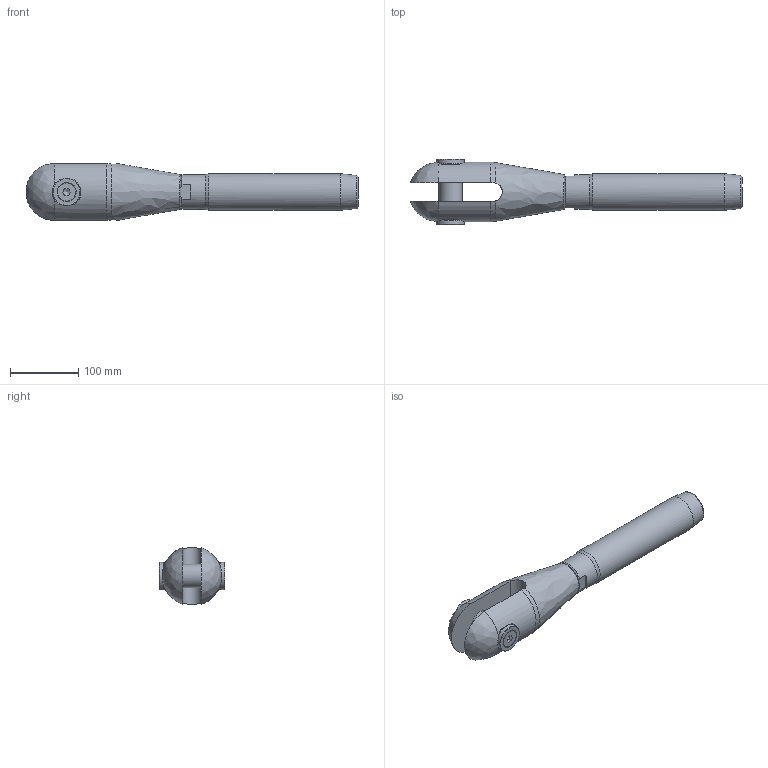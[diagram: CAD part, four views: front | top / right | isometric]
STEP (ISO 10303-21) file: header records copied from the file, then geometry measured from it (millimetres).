
FILE_DESCRIPTION(/* description */ (''),/* implementation_level */ '2;1');
FILE_NAME(/* name */ 'MAC-R 24_S355',/* time_stamp */ '2023-05-23T17:52:50+02:00',/* author */ (''),/* organization */ (''),/* preprocessor_version */ 'ST-DEVELOPER v16.5',/* originating_system */ 'Rhino 7.22',/* authorisation */ '');
FILE_SCHEMA (('CONFIG_CONTROL_DESIGN'));
Length unit declared in the file: millimetre
Products named in the file (1): Document
Bounding box: 484.79 x 95.2 x 82.7 mm (x, y, z)
Volume: 1357326.9 mm3; surface area: 163581.3 mm2
Topology: 7 solids, 7 shells, 88 faces, 246 edges, 171 vertices
Faces by surface type: plane 36, bspline 28, cylinder 24
Full cylindrical faces by diameter (mm): 11.835 x2, 14 x2, 14.5 x2, 26.52 x2, 34 x1, 36 x2, 38.752 x1, 40 x2, 42 x1, 50.8 x1, 53.4 x1
Entity records: 3526 total; most frequent: CARTESIAN_POINT 1963, ORIENTED_EDGE 482, EDGE_CURVE 241, VERTEX_POINT 171, EDGE_LOOP 100, B_SPLINE_CURVE_WITH_KNOTS 97, ADVANCED_FACE 88, FACE_OUTER_BOUND 88
